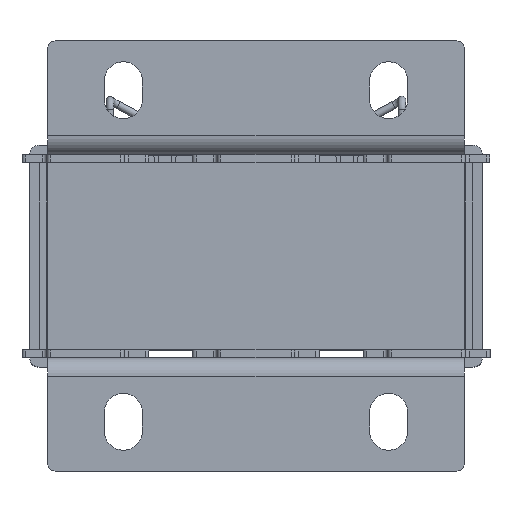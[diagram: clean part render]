
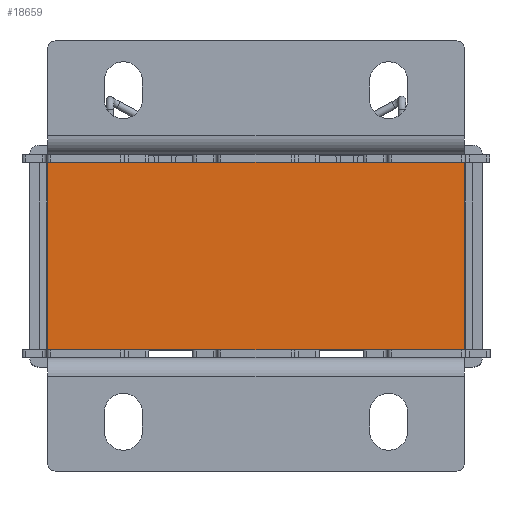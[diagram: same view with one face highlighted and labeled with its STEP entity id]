
A CAD part, top view. The second image highlights one B-rep face of the part: STEP entity #18659.
In plain terms, the highlighted planar face has unit normal (0, 0, 1) as drawn and (0, -1, 0) by its records, which use the part's own axes.
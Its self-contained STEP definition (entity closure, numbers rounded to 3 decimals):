
#283 = VECTOR ( 'NONE', #32606, 1000. ) ;
#465 = CARTESIAN_POINT ( 'NONE',  ( -55., -50.15, 0. ) ) ;
#1451 = LINE ( 'NONE', #27732, #27380 ) ;
#3820 = DIRECTION ( 'NONE',  ( 1., 0., 0. ) ) ;
#6894 = VERTEX_POINT ( 'NONE', #19979 ) ;
#7780 = CARTESIAN_POINT ( 'NONE',  ( 55., -50.15, 0. ) ) ;
#7862 = CARTESIAN_POINT ( 'NONE',  ( 55., -50.15, 49.5 ) ) ;
#7864 = CARTESIAN_POINT ( 'NONE',  ( 55., -50.15, 0. ) ) ;
#9262 = CARTESIAN_POINT ( 'NONE',  ( 55., -50.15, 49.5 ) ) ;
#13038 = VERTEX_POINT ( 'NONE', #7862 ) ;
#14986 = ORIENTED_EDGE ( 'NONE', *, *, #34232, .F. ) ;
#15615 = AXIS2_PLACEMENT_3D ( 'NONE', #9262, #35928, #19332 ) ;
#16479 = PLANE ( 'NONE',  #15615 ) ;
#16683 = VERTEX_POINT ( 'NONE', #465 ) ;
#18348 = EDGE_CURVE ( 'NONE', #16683, #28518, #24172, .T. ) ;
#18659 = ADVANCED_FACE ( 'NONE', ( #26970 ), #16479, .F. ) ;
#19022 = EDGE_CURVE ( 'NONE', #6894, #16683, #19283, .T. ) ;
#19283 = LINE ( 'NONE', #19701, #283 ) ;
#19332 = DIRECTION ( 'NONE',  ( -1., 0., 0. ) ) ;
#19701 = CARTESIAN_POINT ( 'NONE',  ( -55., -50.15, 49.5 ) ) ;
#19976 = VECTOR ( 'NONE', #26600, 1000. ) ;
#19979 = CARTESIAN_POINT ( 'NONE',  ( -55., -50.15, 49.5 ) ) ;
#20725 = CARTESIAN_POINT ( 'NONE',  ( 55., -50.15, 49.5 ) ) ;
#23313 = VECTOR ( 'NONE', #3820, 1000. ) ;
#24172 = LINE ( 'NONE', #7780, #23313 ) ;
#24586 = ORIENTED_EDGE ( 'NONE', *, *, #39903, .F. ) ;
#24615 = ORIENTED_EDGE ( 'NONE', *, *, #18348, .T. ) ;
#26600 = DIRECTION ( 'NONE',  ( 0., 0., -1. ) ) ;
#26818 = LINE ( 'NONE', #20725, #19976 ) ;
#26970 = FACE_OUTER_BOUND ( 'NONE', #40567, .T. ) ;
#27380 = VECTOR ( 'NONE', #31209, 1000. ) ;
#27732 = CARTESIAN_POINT ( 'NONE',  ( 55., -50.15, 49.5 ) ) ;
#28518 = VERTEX_POINT ( 'NONE', #7864 ) ;
#31209 = DIRECTION ( 'NONE',  ( 1., 0., 0. ) ) ;
#32507 = ORIENTED_EDGE ( 'NONE', *, *, #19022, .T. ) ;
#32606 = DIRECTION ( 'NONE',  ( 0., 0., -1. ) ) ;
#34232 = EDGE_CURVE ( 'NONE', #13038, #28518, #26818, .T. ) ;
#35928 = DIRECTION ( 'NONE',  ( 0., 1., 0. ) ) ;
#39903 = EDGE_CURVE ( 'NONE', #6894, #13038, #1451, .T. ) ;
#40567 = EDGE_LOOP ( 'NONE', ( #24615, #14986, #24586, #32507 ) ) ;
